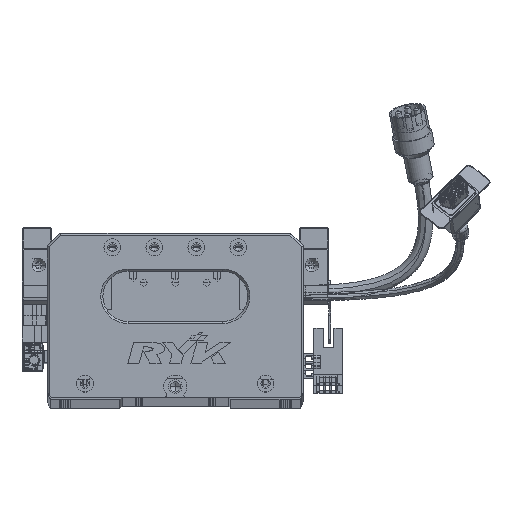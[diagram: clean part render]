
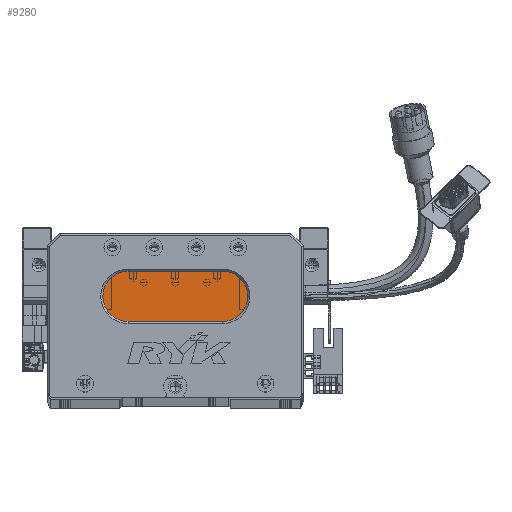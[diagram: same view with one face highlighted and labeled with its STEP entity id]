
A CAD part, top view. The second image highlights one B-rep face of the part: STEP entity #9280.
In plain terms, the highlighted planar face has unit normal (0, 0, 1) as drawn and (0, 0, -1) by its records, which use the part's own axes.
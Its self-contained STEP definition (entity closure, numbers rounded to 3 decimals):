
#2080 = CARTESIAN_POINT ( 'NONE',  ( 26.5, 48., 13. ) ) ;
#7745 = AXIS2_PLACEMENT_3D ( 'NONE', #68553, #69378, #59170 ) ;
#9280 = ADVANCED_FACE ( 'NONE', ( #81244 ), #79606, .T. ) ;
#15054 = DIRECTION ( 'NONE',  ( 0., 0., -1. ) ) ;
#15463 = VERTEX_POINT ( 'NONE', #72117 ) ;
#19539 = EDGE_CURVE ( 'NONE', #48908, #82184, #54149, .T. ) ;
#22847 = DIRECTION ( 'NONE',  ( -1., 0., 0. ) ) ;
#23020 = EDGE_LOOP ( 'NONE', ( #118409, #61537, #38855, #116810, #97703 ) ) ;
#23499 = VECTOR ( 'NONE', #46113, 1000. ) ;
#25534 = LINE ( 'NONE', #116049, #92883 ) ;
#35127 = DIRECTION ( 'NONE',  ( -1., 0., 0. ) ) ;
#36257 = CIRCLE ( 'NONE', #102417, 12. ) ;
#38855 = ORIENTED_EDGE ( 'NONE', *, *, #39610, .T. ) ;
#39610 = EDGE_CURVE ( 'NONE', #82184, #112103, #36257, .T. ) ;
#41193 = CARTESIAN_POINT ( 'NONE',  ( 38.5, 60., 13. ) ) ;
#44112 = DIRECTION ( 'NONE',  ( 0., 0., -1. ) ) ;
#46113 = DIRECTION ( 'NONE',  ( -1., 0., 0. ) ) ;
#48908 = VERTEX_POINT ( 'NONE', #121092 ) ;
#49727 = VERTEX_POINT ( 'NONE', #41193 ) ;
#50969 = CARTESIAN_POINT ( 'NONE',  ( 38.5, 48., 13. ) ) ;
#54149 = LINE ( 'NONE', #94369, #23499 ) ;
#59170 = DIRECTION ( 'NONE',  ( -1., 0., 0. ) ) ;
#61537 = ORIENTED_EDGE ( 'NONE', *, *, #19539, .T. ) ;
#68553 = CARTESIAN_POINT ( 'NONE',  ( 83.5, 48., 13. ) ) ;
#69378 = DIRECTION ( 'NONE',  ( 0., 0., -1. ) ) ;
#71032 = CARTESIAN_POINT ( 'NONE',  ( 83.5, 48., 13. ) ) ;
#72117 = CARTESIAN_POINT ( 'NONE',  ( 83.5, 60., 13. ) ) ;
#76498 = CARTESIAN_POINT ( 'NONE',  ( 38.5, 36., 13. ) ) ;
#79282 = DIRECTION ( 'NONE',  ( 1., 0., 0. ) ) ;
#79606 = PLANE ( 'NONE',  #7745 ) ;
#80684 = CIRCLE ( 'NONE', #120955, 12. ) ;
#81244 = FACE_OUTER_BOUND ( 'NONE', #23020, .T. ) ;
#82184 = VERTEX_POINT ( 'NONE', #76498 ) ;
#89953 = CARTESIAN_POINT ( 'NONE',  ( 38.5, 48., 13. ) ) ;
#91439 = AXIS2_PLACEMENT_3D ( 'NONE', #89953, #44112, #35127 ) ;
#91468 = EDGE_CURVE ( 'NONE', #49727, #15463, #25534, .T. ) ;
#92883 = VECTOR ( 'NONE', #79282, 1000. ) ;
#94369 = CARTESIAN_POINT ( 'NONE',  ( 83.5, 36., 13. ) ) ;
#97703 = ORIENTED_EDGE ( 'NONE', *, *, #91468, .T. ) ;
#97844 = CIRCLE ( 'NONE', #91439, 12. ) ;
#99251 = DIRECTION ( 'NONE',  ( -1., 0., 0. ) ) ;
#99391 = EDGE_CURVE ( 'NONE', #15463, #48908, #80684, .T. ) ;
#102417 = AXIS2_PLACEMENT_3D ( 'NONE', #50969, #115600, #22847 ) ;
#112103 = VERTEX_POINT ( 'NONE', #2080 ) ;
#113551 = EDGE_CURVE ( 'NONE', #112103, #49727, #97844, .T. ) ;
#115600 = DIRECTION ( 'NONE',  ( 0., 0., -1. ) ) ;
#116049 = CARTESIAN_POINT ( 'NONE',  ( 83.5, 60., 13. ) ) ;
#116810 = ORIENTED_EDGE ( 'NONE', *, *, #113551, .T. ) ;
#118409 = ORIENTED_EDGE ( 'NONE', *, *, #99391, .T. ) ;
#120955 = AXIS2_PLACEMENT_3D ( 'NONE', #71032, #15054, #99251 ) ;
#121092 = CARTESIAN_POINT ( 'NONE',  ( 83.5, 36., 13. ) ) ;
